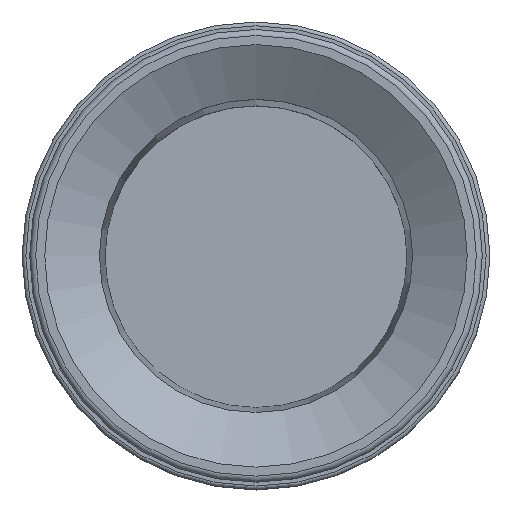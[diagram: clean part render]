
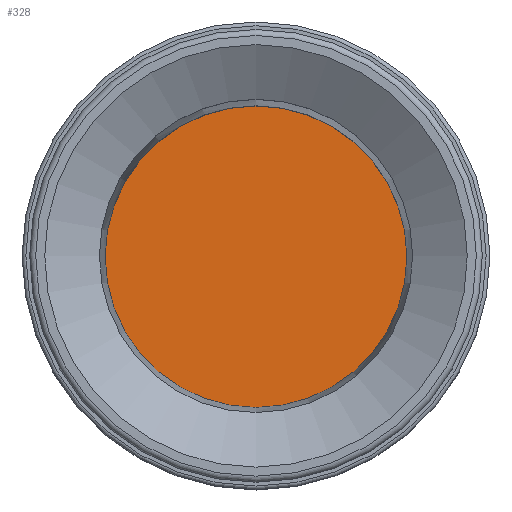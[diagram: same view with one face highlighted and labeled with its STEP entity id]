
A CAD part, top view. The second image highlights one B-rep face of the part: STEP entity #328.
In plain terms, the highlighted planar face has unit normal (0, 0, 1) as drawn and (0, 0, -1) by its records, which use the part's own axes.
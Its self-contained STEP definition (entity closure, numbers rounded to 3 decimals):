
#328=ADVANCED_FACE('',(#466),#467,.F.);
#466=FACE_OUTER_BOUND('',#798,.T.);
#467=PLANE('',#799);
#798=EDGE_LOOP('',(#1136));
#799=AXIS2_PLACEMENT_3D('',#1137,#1138,#1139);
#1136=ORIENTED_EDGE('',*,*,#2024,.T.);
#1137=CARTESIAN_POINT('',(-20.0,0.,80.0));
#1138=DIRECTION('',(0.0,0.,1.0));
#1139=DIRECTION('',(0.0,-1.0,0.));
#2024=EDGE_CURVE('',#2273,#2273,#2274,.T.);
#2273=VERTEX_POINT('',#2697);
#2274=CIRCLE('',#2698,20.0);
#2697=CARTESIAN_POINT('',(0.0,20.0,80.0));
#2698=AXIS2_PLACEMENT_3D('',#3551,#3552,#3553);
#3551=CARTESIAN_POINT('',(0.0,0.,80.0));
#3552=DIRECTION('',(0.0,0.,-1.0));
#3553=DIRECTION('',(0.0,1.0,0.));
